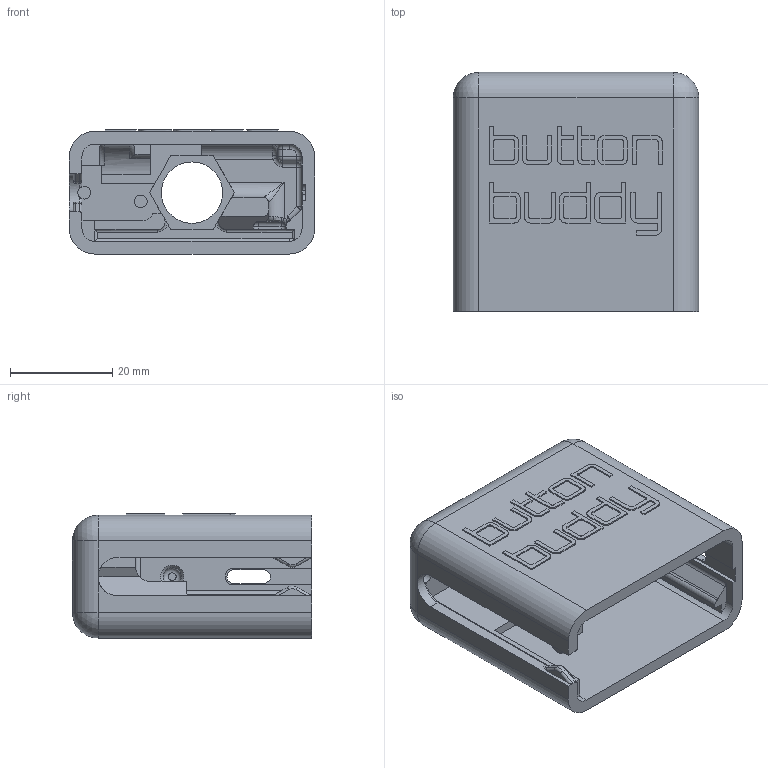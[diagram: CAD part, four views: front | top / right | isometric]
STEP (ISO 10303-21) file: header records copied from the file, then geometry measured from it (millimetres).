
FILE_DESCRIPTION(/* description */ ('STEP AP242 Edition 2','CAx-IF Rec.Pracs.---Representation and Presentation of Product Manufacturing Information (PMI)---4.0---2014-10-13','CAx-IF Rec.Pracs.---3D Tessellated Geometry---0.4---2014-09-14','2;1','CAx-IF Rec.Pracs.---User Defined Attributes---1.5---2016-08-15'),/* implementation_level */ '2;1');
FILE_NAME(/* name */ 'bb_v3 - bb-housing',/* time_stamp */ '2026-05-01T07:59:49Z',/* author */ (''),/* organization */ (''),/* preprocessor_version */ 'ST-DEVELOPER v20',/* originating_system */ 'ONSHAPE BY PTC INC, 1.214',/* authorisation */ ' ');
FILE_SCHEMA (('AP242_MANAGED_MODEL_BASED_3D_ENGINEERING_MIM_LF { 1 0 10303 442 3 1 4 }'));
Length unit declared in the file: metre
Products named in the file (1): bb-housing
Bounding box: 48 x 46.72 x 24.25 mm (x, y, z)
Volume: 22168.4 mm3; surface area: 13586.6 mm2
Topology: 1 solids, 1 shells, 432 faces, 1167 edges, 746 vertices
Faces by surface type: plane 196, cylinder 194, torus 24, sphere 10, bspline 5, cone 3
Full cylindrical faces by diameter (mm): 2.5 x2, 12 x1, 14.2 x1
Entity records: 13572 total; most frequent: CARTESIAN_POINT 2477, DIRECTION 2406, ORIENTED_EDGE 2296, EDGE_CURVE 1148, AXIS2_PLACEMENT_3D 856, VERTEX_POINT 742, LINE 694, VECTOR 694
